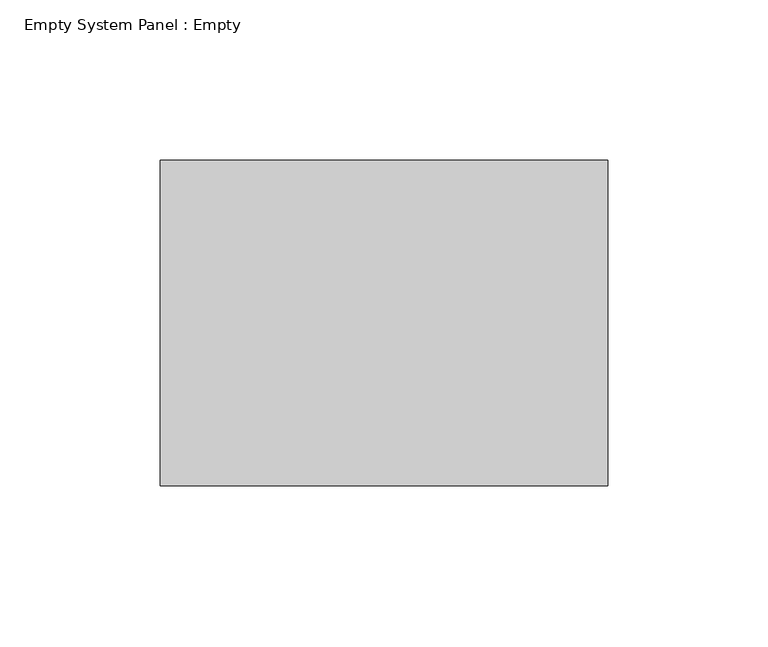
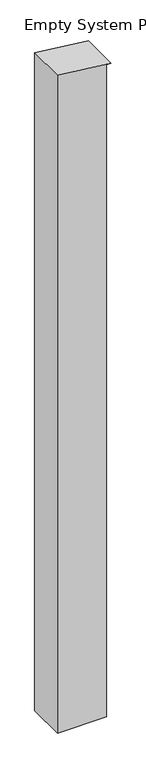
"""IFC4 building model written with IfcOpenShell, lengths in millimetres: plate geometry, Empty System Panel : Empty."""

import ifcopenshell
import ifcopenshell.guid

model = None  # the IFC model being written
_history = None  # IfcOwnerHistory: only IFC2X3 demands one
_inside = {}  # id of a spatial element -> (the spatial element, [elements in it])
_under = {}  # id of a project, library or spatial element -> (it, [spatial elements below it])
_declared = {}  # id of a project -> (the project, [libraries it declares])
_typed = {}  # id of a type object -> (the type object, [elements of that type])
_made_of = {}  # id of a material, layer set ... -> (it, [elements and type objects made of it])


def new_model(schema):
    """Start an empty IFC model of exactly this schema.

    Asked for "IFC4X3", IfcOpenShell would pick the latest addendum, in which some entities
    have other attributes; the version numbers below select the first issue.
    IFC2X3 requires an IfcOwnerHistory on every rooted entity: one is made here for all.
    """
    global model, _history
    if schema == "IFC4X3":
        model = ifcopenshell.file(schema_version=(4, 3, 0, 0))
    else:
        model = ifcopenshell.file(schema=schema)
    _inside.clear()
    _under.clear()
    _declared.clear()
    _typed.clear()
    _made_of.clear()
    _history = None
    if model.schema == "IFC2X3":
        org = make("IfcOrganization", Name="unknown")
        user = make(
            "IfcPersonAndOrganization",
            ThePerson=make("IfcPerson", FamilyName="unknown"),
            TheOrganization=org,
        )
        app = make(
            "IfcApplication",
            ApplicationDeveloper=org,
            Version="unknown",
            ApplicationFullName="unknown",
            ApplicationIdentifier="unknown",
        )
        _history = make(
            "IfcOwnerHistory",
            OwningUser=user,
            OwningApplication=app,
            ChangeAction="ADDED",
            CreationDate=0,
        )
    return model


def make(cls, **values):
    """One entity of the class cls with the attributes given. An attribute that is None is left unset."""
    return model.create_entity(
        cls, **{name: value for name, value in values.items() if value is not None}
    )


def rooted(cls, **values):
    """An entity with a GlobalId (a new one), such as an element, a storey or a relation."""
    return make(cls, GlobalId=ifcopenshell.guid.new(), OwnerHistory=_history, **values)


def si_unit(unit_type, name, prefix=None):
    """IfcSIUnit, for example si_unit("LENGTHUNIT", "METRE", prefix="MILLI")."""
    return make("IfcSIUnit", UnitType=unit_type, Prefix=prefix, Name=name)


def assignment(units):
    """IfcUnitAssignment: the units of a project."""
    return None if units is None else make("IfcUnitAssignment", Units=units)


def point(xyz):
    """IfcCartesianPoint."""
    return None if xyz is None else make("IfcCartesianPoint", Coordinates=xyz)


def direction(xyz):
    """IfcDirection."""
    return None if xyz is None else make("IfcDirection", DirectionRatios=xyz)


def frame(location, z_axis=None, x_axis=None):
    """IfcAxis2Placement3D, a coordinate frame: its origin and axes. An axis left out is left unset."""
    return make(
        "IfcAxis2Placement3D",
        Location=point(location),
        Axis=direction(z_axis),
        RefDirection=direction(x_axis),
    )


def origin():
    """The frame at (0, 0, 0) with its axes left unset."""
    return frame((0.0, 0.0, 0.0))


def place(relative_to, where):
    """IfcLocalPlacement: puts the frame where relative to a parent placement (None: the world)."""
    return make(
        "IfcLocalPlacement", PlacementRelTo=relative_to, RelativePlacement=where
    )


def context(
    kind, dimensions, precision=None, world=None, true_north=None, identifier=None
):
    """IfcGeometricRepresentationContext, for example the 3D "Model" context."""
    return make(
        "IfcGeometricRepresentationContext",
        ContextIdentifier=identifier,
        ContextType=kind,
        CoordinateSpaceDimension=dimensions,
        Precision=precision,
        WorldCoordinateSystem=world,
        TrueNorth=true_north,
    )


def project(units=None, contexts=None):
    """IfcProject with its units and contexts."""
    return rooted(
        "IfcProject",
        Name="project",
        RepresentationContexts=contexts,
        UnitsInContext=assignment(units),
    )


def spatial(cls, under=None, at=None, **own):
    """A site, building, storey or space (cls), placed at a placement, below another one or the project."""
    s = rooted(cls, ObjectPlacement=at, **own)
    if under is not None:
        _under.setdefault(under.id(), (under, []))[1].append(s)
    return s


def polyline(points):
    """IfcPolyline through the points."""
    return make("IfcPolyline", Points=[point(p) for p in points])


def outline(outer, holes=None, kind="AREA"):
    """IfcArbitraryClosedProfileDef: a profile drawn as a closed curve; with holes, ...WithVoids."""
    if holes is None:
        return make("IfcArbitraryClosedProfileDef", ProfileType=kind, OuterCurve=outer)
    return make(
        "IfcArbitraryProfileDefWithVoids",
        ProfileType=kind,
        OuterCurve=outer,
        InnerCurves=holes,
    )


def extrude(swept, where, along, depth):
    """IfcExtrudedAreaSolid: the profile swept, set in the frame where, extruded along a direction by depth."""
    return make(
        "IfcExtrudedAreaSolid",
        SweptArea=swept,
        Position=where,
        ExtrudedDirection=direction(along),
        Depth=depth,
    )


def shape(context_of_items, identifier, shape_type, items):
    """IfcShapeRepresentation: the items that make up one representation, for example the "Body"."""
    return make(
        "IfcShapeRepresentation",
        ContextOfItems=context_of_items,
        RepresentationIdentifier=identifier,
        RepresentationType=shape_type,
        Items=items,
    )


def source(mapping_origin, context_of_items, identifier, shape_type, items):
    """IfcRepresentationMap: a shape defined once, which mapped items show again and again."""
    return make(
        "IfcRepresentationMap",
        MappingOrigin=mapping_origin,
        MappedRepresentation=shape(context_of_items, identifier, shape_type, items),
    )


def transform(
    local_origin,
    x_axis=None,
    y_axis=None,
    z_axis=None,
    scale=None,
    scale2=None,
    scale3=None,
    uniform=True,
):
    """IfcCartesianTransformationOperator3D, or its non-uniform kind. x_axis, y_axis, z_axis: its Axis1, 2, 3."""
    if uniform:
        return make(
            "IfcCartesianTransformationOperator3D",
            Axis1=direction(x_axis),
            Axis2=direction(y_axis),
            LocalOrigin=point(local_origin),
            Scale=scale,
            Axis3=direction(z_axis),
        )
    return make(
        "IfcCartesianTransformationOperator3DnonUniform",
        Axis1=direction(x_axis),
        Axis2=direction(y_axis),
        LocalOrigin=point(local_origin),
        Scale=scale,
        Axis3=direction(z_axis),
        Scale2=scale2,
        Scale3=scale3,
    )


def mapped(mapping_source, mapping_target):
    """IfcMappedItem: shows the shape of a source again, moved by a transform."""
    return make(
        "IfcMappedItem", MappingSource=mapping_source, MappingTarget=mapping_target
    )


def made_of(thing, what):
    """Note that an element or type object is made of a material, layer set ...; save() writes the relation."""
    if what is not None:
        _made_of.setdefault(what.id(), (what, []))[1].append(thing)
    return thing


def element(
    cls,
    number,
    at=None,
    inside=None,
    cuts=None,
    type_object=None,
    material=None,
    context=None,
    identifier="Body",
    shape_type=None,
    held_by="IfcProductDefinitionShape",
    body=None,
    shapes=None,
    **own,
):
    """One element of the class cls, such as IfcWall. Its Tag is "e" and its number.

    at: its placement. inside: the storey or other place that contains it. cuts: it is an
    opening in that element (IfcRelVoidsElement). A single representation is given by context,
    identifier, shape_type and body (its items); several are given by shapes. held_by: the class
    of the entity that holds the representations. save() writes the other relations.
    """
    e = rooted(cls, Tag="e%d" % number, ObjectPlacement=at, **own)
    if body is not None:
        shapes = [shape(context, identifier, shape_type, body)]
    if shapes is not None:
        e.Representation = make(held_by, Representations=shapes)
    if inside is not None:
        _inside.setdefault(inside.id(), (inside, []))[1].append(e)
    if cuts is not None:
        rooted(
            "IfcRelVoidsElement", RelatingBuildingElement=cuts, RelatedOpeningElement=e
        )
    if type_object is not None:
        _typed.setdefault(type_object.id(), (type_object, []))[1].append(e)
    return made_of(e, material)


def aggregate(whole, parts):
    """IfcRelAggregates: a whole, such as a stair, and the parts it consists of."""
    return rooted("IfcRelAggregates", RelatingObject=whole, RelatedObjects=parts)


def save(model, path):
    """Write the relations noted so far, then the file.

    IfcRelAggregates (storeys below a building ...), IfcRelContainedInSpatialStructure (elements
    in a storey), IfcRelDefinesByType, IfcRelAssociatesMaterial and IfcRelDeclares: one each for
    every whole, place, type object, material and project.
    """
    for whole, parts in _under.values():
        aggregate(whole, parts)
    for where, things in _inside.values():
        rooted(
            "IfcRelContainedInSpatialStructure",
            RelatedElements=things,
            RelatingStructure=where,
        )
    for kind, things in _typed.values():
        rooted("IfcRelDefinesByType", RelatedObjects=things, RelatingType=kind)
    for what, things in _made_of.values():
        rooted("IfcRelAssociatesMaterial", RelatedObjects=things, RelatingMaterial=what)
    for by, libraries in _declared.values():
        rooted("IfcRelDeclares", RelatingContext=by, RelatedDefinitions=libraries)
    model.write(path)


def empty_system_panel_empty_c31f8c28(model_context):
    return source(origin(), model_context, "Body", "SweptSolid", [
        extrude(outline(polyline([(0.0, -69.85), (0.0, 57.15), (1786.7996306, 57.15), (1786.7996306, 69.85), (1802.4248206, -69.85), (0.0, -69.85)])), frame((0.0, -50.8, 0.0), z_axis=(0.0, 1.0, 0.0), x_axis=(0.0, 0.0, 1.0)), (0.0, 0.0, 1.0), 101.6),
    ])


if __name__ == "__main__":
    model = new_model("IFC4")
    model_context = context("Model", 3, world=origin())
    ifc_project = project(units=[si_unit("LENGTHUNIT", "METRE", prefix="MILLI")], contexts=[model_context])
    site = spatial("IfcSite", under=ifc_project)
    building = spatial("IfcBuilding", under=site)
    placement = place(None, origin())
    empty_system_panel_empty_shape = empty_system_panel_empty_c31f8c28(model_context)
    element("IfcPlate", 1, ObjectType="Empty System Panel : Empty", at=placement, inside=building, context=model_context, shape_type="MappedRepresentation", body=[
        mapped(empty_system_panel_empty_shape, transform((0.0, 0.0, 0.0), x_axis=(1.0, 0.0, 0.0), y_axis=(0.0, 1.0, 0.0), z_axis=(0.0, 0.0, 1.0))),
    ])
    save(model, "model.ifc")
